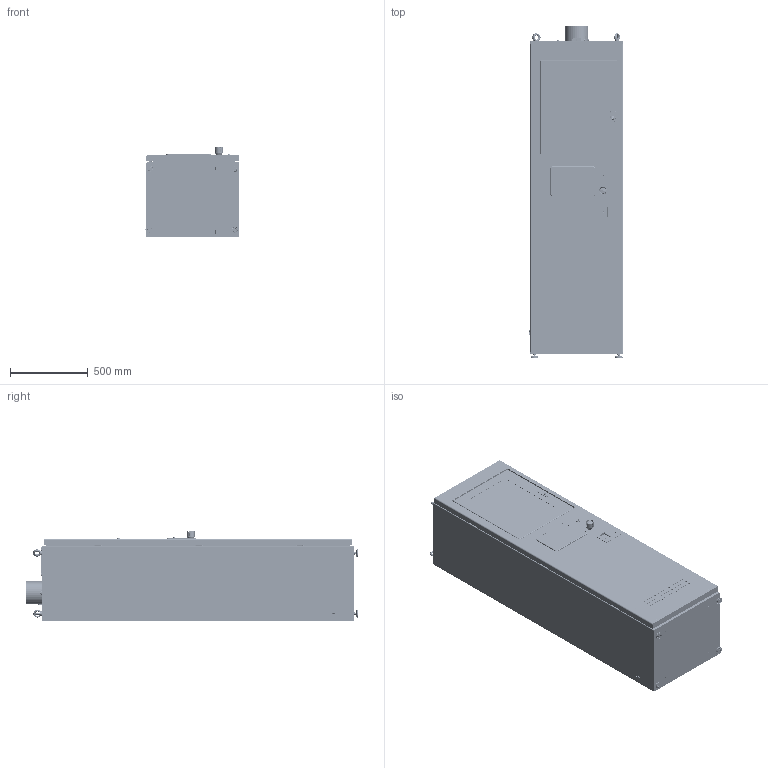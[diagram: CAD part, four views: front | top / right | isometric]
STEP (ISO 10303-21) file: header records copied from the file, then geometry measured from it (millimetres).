
FILE_DESCRIPTION (( 'STEP AP214' ), '1' );
FILE_NAME ('_ORW-72.24.00-01 ÑÁ Øêàô äâóõáàëëîííûé.STEP', '2025-12-17T13:02:06', ( 'Àíäðåé' ), ( '' ), 'SwSTEP 2.0', 'SolidWorks 2025', '' );
FILE_SCHEMA (( 'AUTOMOTIVE_DESIGN' ));
Length unit declared in the file: millimetre
Products named in the file (127): ORW-72.24.20.20.10.001 Полотно; ORW-72.24.30 СБ Дно; socket head cap screw_iso_ISO 4762 M5 x 16 - 16N; уплотнитель 8х3; Замок 016-6-2-03 ф. Mesan; ORW-72.24.10 СБ Корпус; ORW-72.24.10.006 Дно; ORW-72.24.30.001 Дно; ORW-72.24.10.011 Уголок; ORW-62.24.10.006 Планка; hex nut with 1.5d height-2_din_DIN 6330-B-M10-N; ORW-72.24.70.001 Панель; plain washer large grade ac_iso_Washer ISO 7093 - 8; Шпилька резьбовая приварная ГОСТ Р 55738-2013_М4-10; 5M-30TS(CK)-KN M5 privarka-k97_-Фаска; ORW-008.20.203 Стекло; wing screw_din_Wing screw DIN 316-M6X16; socket head cap screw_iso_ISO 4762 M8 x 30 - 30N; ORW-72.24.10.009 Уголок; заглушка TTP_10,7; Петля 295-6-3-1 ф. Mesan; plain washer normal grade a_iso_Washer ISO 7089 - 8; hex nut style 1 gradeab_iso_ISO - 4032 - M4 - W - N; Прокладка от скольжения под 50мм; ORW-72.24.60 СБ Подставка; socket button head screw_iso_ISO 7380 - M6 x 16 - 16N; Кабельный ввод METRICA-P- М12х1,5 (3-6,5); plain washer normal grade a_iso_Washer ISO 7089 - 6; ORW-72.24.30.002 Профиль; abb_MPET4-10R_1SFA611523R1001_Red Modular Emergency Stop; гайка соединительная DIN 6334_М6; socket head cap screw_iso_ISO 4762 M6 x 12 - 12N; ORW-72.24.10.015 Планка; socket button head screw_iso_ISO 7380 - M6 x 10 - 10N; Шпилька резьбовая приварная ГОСТ Р 55738-2013_М4-16; 8M-30TS(CK)-KN M8 privarka-k97_-Фаска; ORW-72.24.20.20.10.002 Уголок; ORW-72.24.80 СБ Перекладина; eyebolt580_din_Eyebolt DIN 358-M12-N; Провод ПВ3 (ПуГВ) 2,5 Желто-зеленый^ORW-72.24.00 СБ Шкаф двухбаллонный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
Assembly tree (508 placements, depth 5):
  _ORW-72.24.00-01 СБ Шкаф двухбаллонный
    Шайба_пружинная_6402-70_ф 6  x8
    socket head cap screw_iso_ISO 4762 M8 x 20 - 20N  x25
    plain washer large grade ac_iso_Washer ISO 7093 - 8  x12
    socket head cap screw_iso_ISO 4762 M8 x 30 - 30N  x2
    plain washer large grade ac_iso_Washer ISO 7093 - 5  x6
    socket head cap screw_iso_ISO 4762 M6 x 16 - 16N  x6
    plain washer normal grade a_iso_Washer ISO 7089 - 6  x6
    Шайба_пружинная_6402-70_ф 5  x14
    eyebolt580_din_Eyebolt DIN 358-M12-N  x4
    plain washer large grade ac_iso_Washer ISO 7093 - 6  x2
    YSA40-25-27-68-K01 Сальник d 25мм (Dотв.бокса 27мм) белый_20 мм
    заглушка TTP_6,3  x4
    заглушка TTP_10,7  x6
    O-terminal_GF-M5  x4
    plain washer normal grade a_iso_Washer ISO 7089 - 5  x12
    socket head cap screw_iso_ISO 4762 M5 x 8 - 8N  x6
    socket head cap screw_iso_ISO 4762 M6 x 12 - 12N  x2
    hex nut style 1 gradeab_iso_ISO - 4032 - M12 - W - N
    plain washer normal grade a_iso_Washer ISO 7089 - 8  x5
    plain washer normal grade a_iso_Washer ISO 7089 - 12  x4
    Гайка высокая с фланцем DIN 6331_М12  x4
    socket button head screw_iso_ISO 7380 - M6 x 10 - 10N  x4
    torque nut 01_iso_ISO 7040-M6-N  x4
    7037  x4
      Подошва поворотная 50мм
      Шпилька М10 80мм
      Прокладка от скольжения под 50мм
    socket head cap screw_iso_ISO 4762 M5 x 10 - 10N  x6
    socket head cap screw_iso_ISO 4762 M5 x 16 - 16N
    ORW-72.24.10 СБ Корпус
      hex nut with 1.5d height-2_din_DIN 6330-B-M10-N  x4
      5M-30TS(CK)-KN M5 privarka-k97_-Уменьшенный борт  x3
      Заклепка запрессовочная 30302 М5  x6
      гайка соединительная DIN 6334_М6  x2
      6M-30TS(CK)-KN M6 privarka-k97_-Фаска  x6
      8M-30TS(CK)-KN M8 privarka-k97_-Фаска  x68
      5M-30TS(CK)-KN M5 privarka-k97_-Фаска  x24
      ORW-62.24.10.006 Планка  x2
      ORW-72.24.10.001 Стенка задняя
      ORW-72.24.10.002 Крышка
      ORW-72.24.10.003 Стенка левая
      ORW-72.24.10.006 Дно
      ORW-72.24.10.007 Профиль  x2
      ORW-72.24.10.008 Стенка правая
      ORW-72.24.10.009 Уголок
      ORW-72.24.10.010 Планка  x4
      ORW-72.24.10.011 Уголок  x2
      ORW-72.24.10.013 Панель  x4
      ORW-008.20.106 Патрубок
      ORW-72.24.10.014 Уголок  x2
      ORW-72.24.10.015 Планка  x4
    ORW-72.24.20 СБ Дверь
      plain washer large grade ac_iso_Washer ISO 7093 - 5  x4
      plain washer large grade ac_iso_Washer ISO 7093 - 4  x6
      hex nut style 1 gradeab_iso_ISO - 4032 - M4 - W - N  x6
      plain washer normal grade a_iso_Washer ISO 7089 - 6  x4
      Шайба_пружинная_6402-70_ф 6  x4
      socket button head screw_iso_ISO 7380 - M6 x 16 - 16N  x4
      wing screw_din_Wing screw DIN 316-M6X16  x2
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Bounding box: 610.57 x 2138.38 x 580.1 mm (x, y, z)
Volume: 22511465.7 mm3; surface area: 17188342.2 mm2
Topology: 532 solids, 550 shells, 13312 faces, 31002 edges, 19546 vertices
Faces by surface type: plane 7372, cylinder 3603, cone 1097, torus 830, bspline 393, sphere 17
Full cylindrical faces by diameter (mm): 0.5 x21, 0.65 x16, 0.75 x5, 3 x16, 3.3 x16, 3.8 x5, 4 x32, 4.2 x41, 4.3 x16, 4.5 x10, 4.782 x5, 5 x57, 5.3 x36, 5.4 x58, 5.5 x20, 5.58 x9, 5.857 x4, 6 x34, 6.3 x4, 6.38 x8, 6.4 x34, 6.5 x8, 6.8 x109, 6.9 x29, 7 x106, 7.143 x4, 7.4 x24, 7.5 x4, 7.82 x12, 8 x45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
Entity records: 252200 total; most frequent: CARTESIAN_POINT 54080, DIRECTION 33077, ORIENTED_EDGE 32648, EDGE_CURVE 16324, AXIS2_PLACEMENT_3D 11102, LINE 10873, VECTOR 10873, VERTEX_POINT 10872
